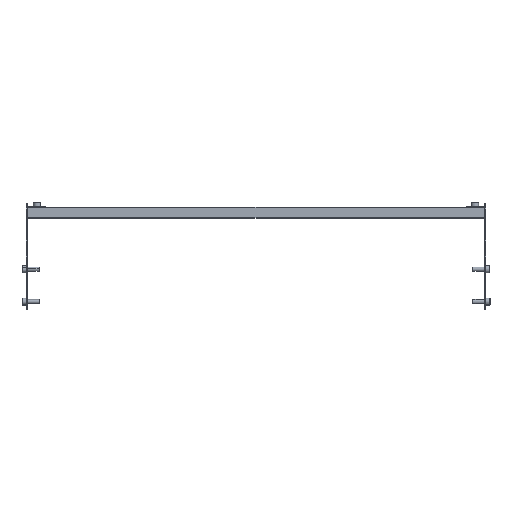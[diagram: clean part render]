
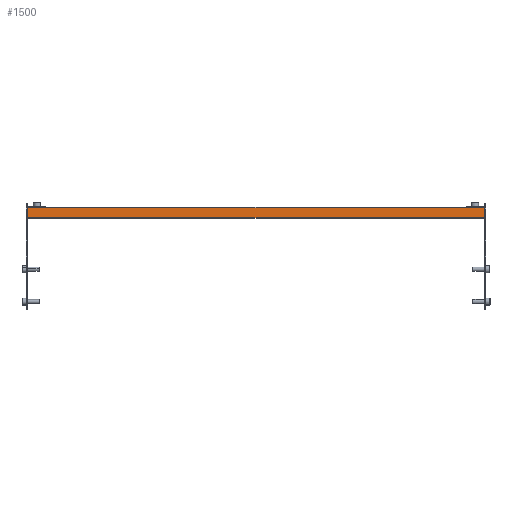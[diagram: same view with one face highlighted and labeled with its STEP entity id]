
A CAD part, front view. The second image highlights one B-rep face of the part: STEP entity #1500.
In plain terms, the highlighted planar face has unit normal (0, -1, 0) as drawn and (1, 0, 0) by its records, which use the part's own axes.
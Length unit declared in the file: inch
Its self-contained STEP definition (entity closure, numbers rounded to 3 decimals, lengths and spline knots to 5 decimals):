
#163 = CARTESIAN_POINT ( 'NONE',  ( 0.78127, 0.29528, -12.30175 ) ) ;
#425 = CARTESIAN_POINT ( 'NONE',  ( 0.78127, -0.26528, 12.30175 ) ) ;
#575 = AXIS2_PLACEMENT_3D ( 'NONE', #6064, #3558, #3655 ) ;
#891 = FACE_OUTER_BOUND ( 'NONE', #5085, .T. ) ;
#971 = VECTOR ( 'NONE', #5537, 39.37008 ) ;
#1083 = LINE ( 'NONE', #5516, #7448 ) ;
#1095 = PLANE ( 'NONE',  #575 ) ;
#1187 = VERTEX_POINT ( 'NONE', #5415 ) ;
#1408 = DIRECTION ( 'NONE',  ( 0., 1., 0. ) ) ;
#1500 = ADVANCED_FACE ( 'NONE', ( #891 ), #1095, .F. ) ;
#1522 = EDGE_CURVE ( 'NONE', #5045, #5081, #1083, .T. ) ;
#1638 = VECTOR ( 'NONE', #1408, 39.37008 ) ;
#1708 = CARTESIAN_POINT ( 'NONE',  ( 0.78127, 0.26528, -12.30175 ) ) ;
#1729 = CARTESIAN_POINT ( 'NONE',  ( 0.78127, 0.26528, 12.30175 ) ) ;
#2409 = DIRECTION ( 'NONE',  ( 0., 0., 1. ) ) ;
#3202 = EDGE_CURVE ( 'NONE', #5045, #1187, #3857, .T. ) ;
#3558 = DIRECTION ( 'NONE',  ( -1., 0., 0. ) ) ;
#3655 = DIRECTION ( 'NONE',  ( 0., 0., 1. ) ) ;
#3857 = LINE ( 'NONE', #8149, #971 ) ;
#4082 = ORIENTED_EDGE ( 'NONE', *, *, #7947, .T. ) ;
#4271 = DIRECTION ( 'NONE',  ( 0., 0., -1. ) ) ;
#4924 = VECTOR ( 'NONE', #2409, 39.37008 ) ;
#5045 = VERTEX_POINT ( 'NONE', #425 ) ;
#5081 = VERTEX_POINT ( 'NONE', #6128 ) ;
#5085 = EDGE_LOOP ( 'NONE', ( #6770, #6569, #6219, #4082 ) ) ;
#5166 = VERTEX_POINT ( 'NONE', #1708 ) ;
#5415 = CARTESIAN_POINT ( 'NONE',  ( 0.78127, 0.26528, 12.30175 ) ) ;
#5516 = CARTESIAN_POINT ( 'NONE',  ( 0.78127, -0.26528, 12.30175 ) ) ;
#5537 = DIRECTION ( 'NONE',  ( 0., 1., 0. ) ) ;
#5908 = LINE ( 'NONE', #1729, #4924 ) ;
#6064 = CARTESIAN_POINT ( 'NONE',  ( 0.78127, 0.29528, 12.30175 ) ) ;
#6128 = CARTESIAN_POINT ( 'NONE',  ( 0.78127, -0.26528, -12.30175 ) ) ;
#6219 = ORIENTED_EDGE ( 'NONE', *, *, #7924, .T. ) ;
#6569 = ORIENTED_EDGE ( 'NONE', *, *, #1522, .T. ) ;
#6613 = LINE ( 'NONE', #163, #1638 ) ;
#6770 = ORIENTED_EDGE ( 'NONE', *, *, #3202, .F. ) ;
#7448 = VECTOR ( 'NONE', #4271, 39.37008 ) ;
#7924 = EDGE_CURVE ( 'NONE', #5081, #5166, #6613, .T. ) ;
#7947 = EDGE_CURVE ( 'NONE', #5166, #1187, #5908, .T. ) ;
#8149 = CARTESIAN_POINT ( 'NONE',  ( 0.78127, 0.29528, 12.30175 ) ) ;
